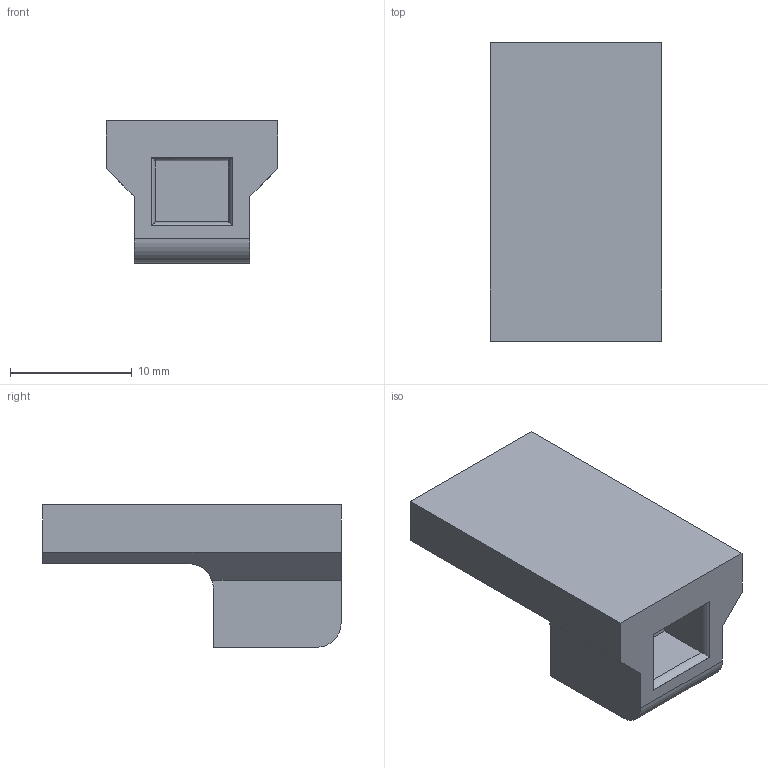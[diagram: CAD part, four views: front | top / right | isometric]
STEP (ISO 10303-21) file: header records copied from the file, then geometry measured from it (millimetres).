
FILE_DESCRIPTION(('HOOPS Exchange Step'),'2;1');
FILE_NAME('/private/var/mobile/Containers/Data/Application/3D331496-78D7-4D8A-96EF-C26D196FB948/tmp/export/temp_export','2026-09-29T20:36:34+19:00',('mobile'),('Shapr3D Limited'),'HOOPS Exchange 2026.3','Shapr3D','Authorized');
FILE_SCHEMA( ('AP242_MANAGED_MODEL_BASED_3D_ENGINEERING_MIM_LF {1 0 10303 442 1 1 4}') );
Length unit declared in the file: millimetre
Products named in the file (2): Rod pusher.step; root
Assembly tree (1 placements, depth 2):
  root
    Rod pusher.step
Bounding box: 14.06 x 24.5 x 11.7 mm (x, y, z)
Volume: 2202 mm3; surface area: 1382.6 mm2
Topology: 1 solids, 1 shells, 27 faces, 64 edges, 40 vertices
Faces by surface type: plane 21, cylinder 6
Entity records: 833 total; most frequent: CARTESIAN_POINT 163, ORIENTED_EDGE 128, DIRECTION 124, EDGE_CURVE 64, VECTOR 54, LINE 54, VERTEX_POINT 40, AXIS2_PLACEMENT_3D 35
